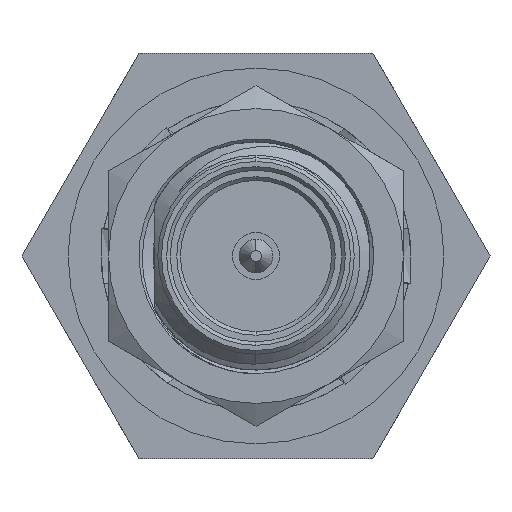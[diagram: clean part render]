
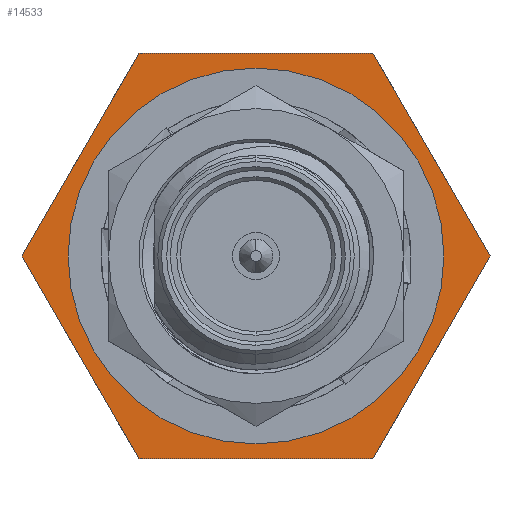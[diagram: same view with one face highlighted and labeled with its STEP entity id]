
A CAD part, left-side view. The second image highlights one B-rep face of the part: STEP entity #14533.
In plain terms, the highlighted planar face has unit normal (-1, 0, 0).
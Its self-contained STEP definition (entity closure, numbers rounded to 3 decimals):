
#3034=CARTESIAN_POINT('',(-2.54,0.,0.));
#3035=DIRECTION('',(1.,0.,0.));
#3036=DIRECTION('',(0.,0.,1.));
#3037=AXIS2_PLACEMENT_3D('',#3034,#3035,#3036);
#3039=CARTESIAN_POINT('',(-2.54,0.,0.));
#3040=DIRECTION('',(1.,0.,0.));
#3041=DIRECTION('',(0.,0.,-1.));
#3042=AXIS2_PLACEMENT_3D('',#3039,#3040,#3041);
#3070=DIRECTION('',(0.,0.5,0.866));
#3071=VECTOR('',#3070,6.351);
#3072=CARTESIAN_POINT('',(-2.54,3.175,-5.5));
#3073=LINE('',#3072,#3071);
#3104=DIRECTION('',(0.,1.,0.));
#3105=VECTOR('',#3104,6.351);
#3106=CARTESIAN_POINT('',(-2.54,-3.175,-5.5));
#3107=LINE('',#3106,#3105);
#3163=DIRECTION('',(0.,-0.5,-0.866));
#3164=VECTOR('',#3163,6.351);
#3165=CARTESIAN_POINT('',(-2.54,-3.175,5.5));
#3166=LINE('',#3165,#3164);
#3197=DIRECTION('',(0.,-1.,0.));
#3198=VECTOR('',#3197,6.351);
#3199=CARTESIAN_POINT('',(-2.54,3.175,5.5));
#3200=LINE('',#3199,#3198);
#3236=DIRECTION('',(0.,-0.5,0.866));
#3237=VECTOR('',#3236,6.351);
#3238=CARTESIAN_POINT('',(-2.54,6.351,0.));
#3239=LINE('',#3238,#3237);
#3270=DIRECTION('',(0.,0.5,-0.866));
#3271=VECTOR('',#3270,6.351);
#3272=CARTESIAN_POINT('',(-2.54,-6.351,0.));
#3273=LINE('',#3272,#3271);
#10100=CARTESIAN_POINT('',(-2.54,3.175,-5.5));
#10101=CARTESIAN_POINT('',(-2.54,6.351,0.));
#10102=VERTEX_POINT('',#10100);
#10103=VERTEX_POINT('',#10101);
#10104=CARTESIAN_POINT('',(-2.54,3.175,5.5));
#10105=VERTEX_POINT('',#10104);
#10106=CARTESIAN_POINT('',(-2.54,-3.175,5.5));
#10107=VERTEX_POINT('',#10106);
#10108=CARTESIAN_POINT('',(-2.54,-6.351,0.));
#10109=VERTEX_POINT('',#10108);
#10110=CARTESIAN_POINT('',(-2.54,-3.175,-5.5));
#10111=VERTEX_POINT('',#10110);
#10124=CARTESIAN_POINT('',(-2.54,0.,5.1));
#10125=CARTESIAN_POINT('',(-2.54,0.,-5.1));
#10126=VERTEX_POINT('',#10124);
#10127=VERTEX_POINT('',#10125);
#14509=CARTESIAN_POINT('',(-2.54,0.,0.));
#14510=DIRECTION('',(-1.,0.,0.));
#14511=DIRECTION('',(0.,0.,1.));
#14512=AXIS2_PLACEMENT_3D('',#14509,#14510,#14511);
#14513=PLANE('',#14512);
#14515=ORIENTED_EDGE('',*,*,#14514,.T.);
#14517=ORIENTED_EDGE('',*,*,#14516,.T.);
#14519=ORIENTED_EDGE('',*,*,#14518,.T.);
#14521=ORIENTED_EDGE('',*,*,#14520,.T.);
#14523=ORIENTED_EDGE('',*,*,#14522,.T.);
#14525=ORIENTED_EDGE('',*,*,#14524,.T.);
#14526=EDGE_LOOP('',(#14515,#14517,#14519,#14521,#14523,#14525));
#14527=FACE_OUTER_BOUND('',#14526,.F.);
#14528=ORIENTED_EDGE('',*,*,#14499,.F.);
#14530=ORIENTED_EDGE('',*,*,#14529,.F.);
#14531=EDGE_LOOP('',(#14528,#14530));
#14532=FACE_BOUND('',#14531,.F.);
#14533=ADVANCED_FACE('',(#14527,#14532),#14513,.T.);
#3038=CIRCLE('',#3037,5.1);
#3043=CIRCLE('',#3042,5.1);
#14499=EDGE_CURVE('',#10126,#10127,#3038,.T.);
#14514=EDGE_CURVE('',#10102,#10103,#3073,.T.);
#14516=EDGE_CURVE('',#10103,#10105,#3239,.T.);
#14518=EDGE_CURVE('',#10105,#10107,#3200,.T.);
#14520=EDGE_CURVE('',#10107,#10109,#3166,.T.);
#14522=EDGE_CURVE('',#10109,#10111,#3273,.T.);
#14524=EDGE_CURVE('',#10111,#10102,#3107,.T.);
#14529=EDGE_CURVE('',#10127,#10126,#3043,.T.);
